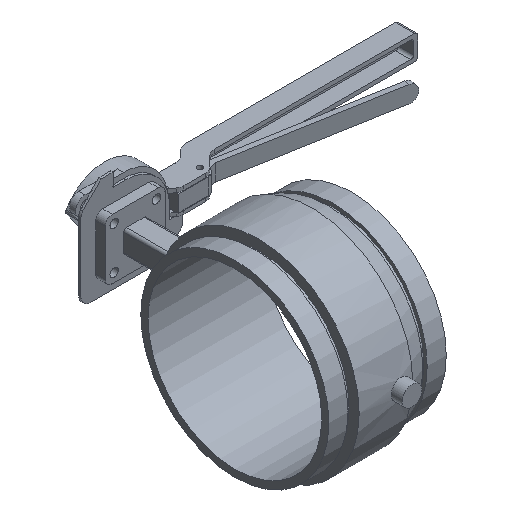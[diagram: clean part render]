
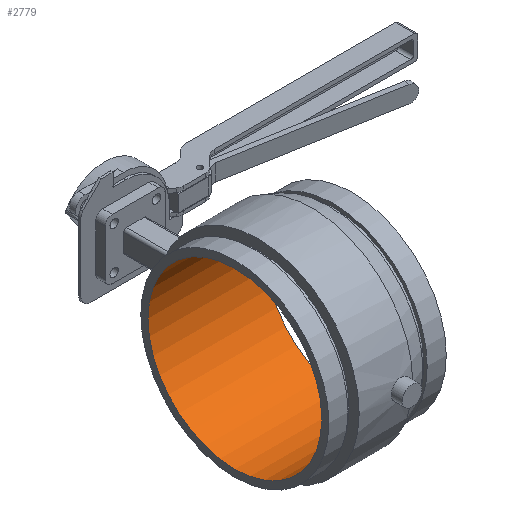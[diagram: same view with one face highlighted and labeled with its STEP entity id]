
A CAD part, isometric view. The second image highlights one B-rep face of the part: STEP entity #2779.
In plain terms, the highlighted cylindrical face has radius 101.203 mm (diameter 202.406 mm), a full revolution.
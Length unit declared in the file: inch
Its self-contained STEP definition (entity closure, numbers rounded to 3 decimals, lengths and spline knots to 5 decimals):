
#256=FACE_OUTER_BOUND('',#404,.T.);
#404=EDGE_LOOP('',(#1942,#1943,#1944,#1945,#1946,#1947));
#577=LINE('',#4402,#796);
#796=VECTOR('',#3470,3.98438);
#1008=CIRCLE('',#3039,3.98438);
#1009=CIRCLE('',#3040,3.98438);
#1010=CIRCLE('',#3041,3.98438);
#1011=CIRCLE('',#3042,3.98438);
#1211=VERTEX_POINT('',#4398);
#1212=VERTEX_POINT('',#4399);
#1213=VERTEX_POINT('',#4401);
#1214=VERTEX_POINT('',#4403);
#1491=EDGE_CURVE('',#1211,#1212,#1008,.T.);
#1492=EDGE_CURVE('',#1212,#1213,#577,.T.);
#1493=EDGE_CURVE('',#1214,#1213,#1009,.T.);
#1494=EDGE_CURVE('',#1213,#1214,#1010,.T.);
#1495=EDGE_CURVE('',#1212,#1211,#1011,.T.);
#1942=ORIENTED_EDGE('',*,*,#1491,.T.);
#1943=ORIENTED_EDGE('',*,*,#1492,.T.);
#1944=ORIENTED_EDGE('',*,*,#1493,.F.);
#1945=ORIENTED_EDGE('',*,*,#1494,.F.);
#1946=ORIENTED_EDGE('',*,*,#1492,.F.);
#1947=ORIENTED_EDGE('',*,*,#1495,.T.);
#2552=CYLINDRICAL_SURFACE('',#3038,3.98438);
#2779=ADVANCED_FACE('',(#256),#2552,.F.);
#3038=AXIS2_PLACEMENT_3D('',#4397,#3466,#3467);
#3039=AXIS2_PLACEMENT_3D('',#4400,#3468,#3469);
#3040=AXIS2_PLACEMENT_3D('',#4404,#3471,#3472);
#3041=AXIS2_PLACEMENT_3D('',#4405,#3473,#3474);
#3042=AXIS2_PLACEMENT_3D('',#4406,#3475,#3476);
#3466=DIRECTION('center_axis',(1.,0.,0.));
#3467=DIRECTION('ref_axis',(0.,1.,0.));
#3468=DIRECTION('center_axis',(1.,0.,0.));
#3469=DIRECTION('ref_axis',(0.,0.,-1.));
#3470=DIRECTION('',(-1.,0.,0.));
#3471=DIRECTION('center_axis',(1.,0.,0.));
#3472=DIRECTION('ref_axis',(0.,0.,-1.));
#3473=DIRECTION('center_axis',(1.,0.,0.));
#3474=DIRECTION('ref_axis',(0.,0.,-1.));
#3475=DIRECTION('center_axis',(1.,0.,0.));
#3476=DIRECTION('ref_axis',(0.,0.,-1.));
#4397=CARTESIAN_POINT('Origin',(-0.31,0.,0.));
#4398=CARTESIAN_POINT('',(2.38,0.,-3.98438));
#4399=CARTESIAN_POINT('',(2.38,-3.98438,0.));
#4400=CARTESIAN_POINT('Origin',(2.38,0.,0.));
#4401=CARTESIAN_POINT('',(-3.,-3.98438,0.));
#4402=CARTESIAN_POINT('',(-0.31,-3.98438,0.));
#4403=CARTESIAN_POINT('',(-3.,3.98438,0.));
#4404=CARTESIAN_POINT('Origin',(-3.,0.,0.));
#4405=CARTESIAN_POINT('Origin',(-3.,0.,0.));
#4406=CARTESIAN_POINT('Origin',(2.38,0.,0.));
